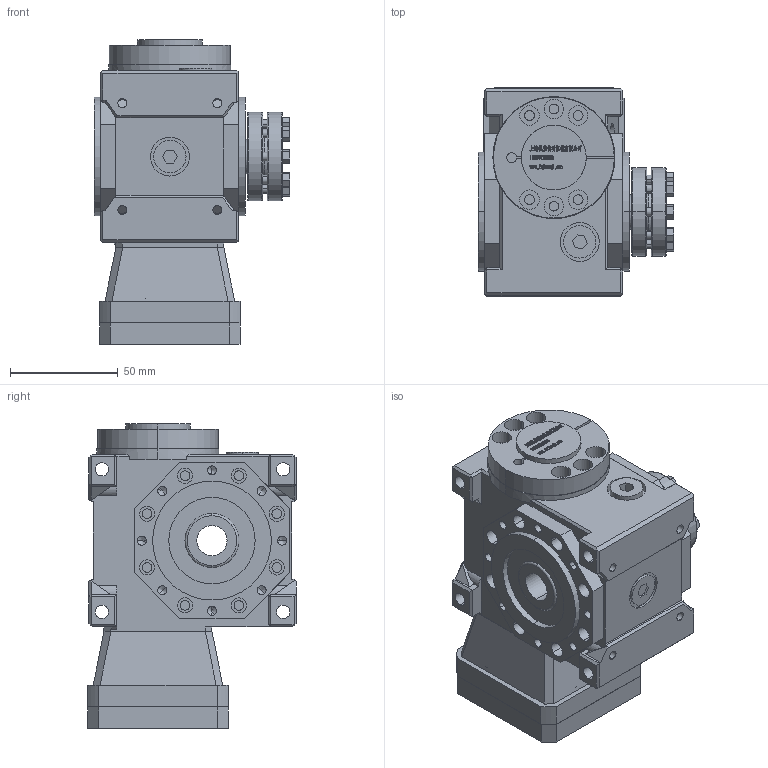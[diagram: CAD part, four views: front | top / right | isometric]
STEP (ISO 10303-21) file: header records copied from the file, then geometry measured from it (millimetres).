
FILE_DESCRIPTION (( 'STEP AP203' ), '1' );
FILE_NAME ('FXLB025-(5~90)-C1-14-50-70-M5.step', '2022-11-06T02:17:23', ( '' ), ( '' ), 'SwSTEP 2.0', 'SolidWorks 2020', '' );
FILE_SCHEMA (( 'CONFIG_CONTROL_DESIGN' ));
Length unit declared in the file: millimetre
Products named in the file (9): ______BD29-33-9-14____.step; JDLB025-C1________14.step; FXLB025-(5~90)-C1-14-50-70-M5.step; FXLB025-(5~90)-C1-14-50-70-M5; JDLB025-C1______-16-41-16.step; 錨璃93^FXLB025-(5~90)-C1-14-50-70-M5; ST60-50-70-M6____________.step; JDLB025-ST60________.step; JDLB025-CR____.step
Assembly tree (8 placements, depth 3):
  FXLB025-(5~90)-C1-14-50-70-M5
    FXLB025-(5~90)-C1-14-50-70-M5.step
      JDLB025-CR____.step
      JDLB025-ST60________.step
      JDLB025-C1________14.step
      ST60-50-70-M6____________.step
      ______BD29-33-9-14____.step
      JDLB025-C1______-16-41-16.step
    錨璃93^FXLB025-(5~90)-C1-14-50-70-M5
Bounding box: 90.5 x 96.5 x 141.2 mm (x, y, z)
Volume: 594714.1 mm3; surface area: 141295.1 mm2
Topology: 85 solids, 89 shells, 2786 faces, 7246 edges, 4731 vertices
Faces by surface type: plane 1630, bspline 572, cylinder 456, cone 92, torus 36
Entity records: 110049 total; most frequent: CARTESIAN_POINT 44209, ORIENTED_EDGE 14368, DIRECTION 11438, EDGE_CURVE 7184, LINE 4916, VECTOR 4916, VERTEX_POINT 4731, AXIS2_PLACEMENT_3D 3261
